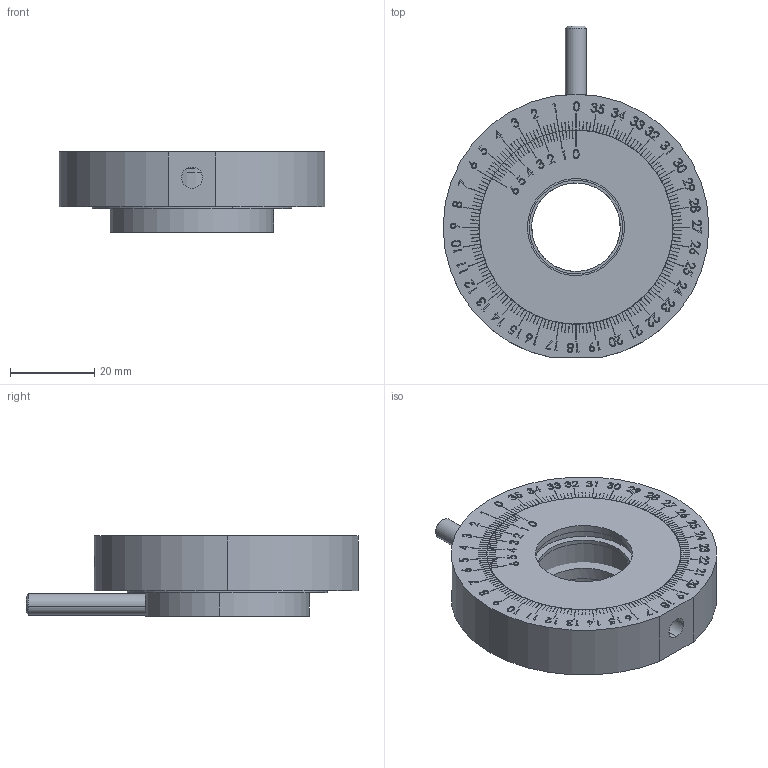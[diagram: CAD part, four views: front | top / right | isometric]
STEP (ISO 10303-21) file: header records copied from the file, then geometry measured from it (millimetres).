
FILE_DESCRIPTION (( 'STEP AP203' ), '1' );
FILE_NAME ('M-PPM-1.STEP', '2017-02-21T05:23:23', ( '' ), ( '' ), 'SwSTEP 2.0', 'SolidWorks 2012', '' );
FILE_SCHEMA (( 'CONFIG_CONTROL_DESIGN' ));
Length unit declared in the file: millimetre
Products named in the file (1): M-PPM-1
Bounding box: 63 x 78.7 x 19 mm (x, y, z)
Surface area: 14143 mm2 (no closed solid volume)
Topology: 0 solids, 6 shells, 373 faces, 2158 edges, 1852 vertices
Faces by surface type: plane 337, cylinder 34, cone 2
Entity records: 28787 total; most frequent: CARTESIAN_POINT 11488, ORIENTED_EDGE 4054, DIRECTION 3200, EDGE_CURVE 2158, VERTEX_POINT 1852, AXIS2_PLACEMENT_3D 1117, VECTOR 966, LINE 966
